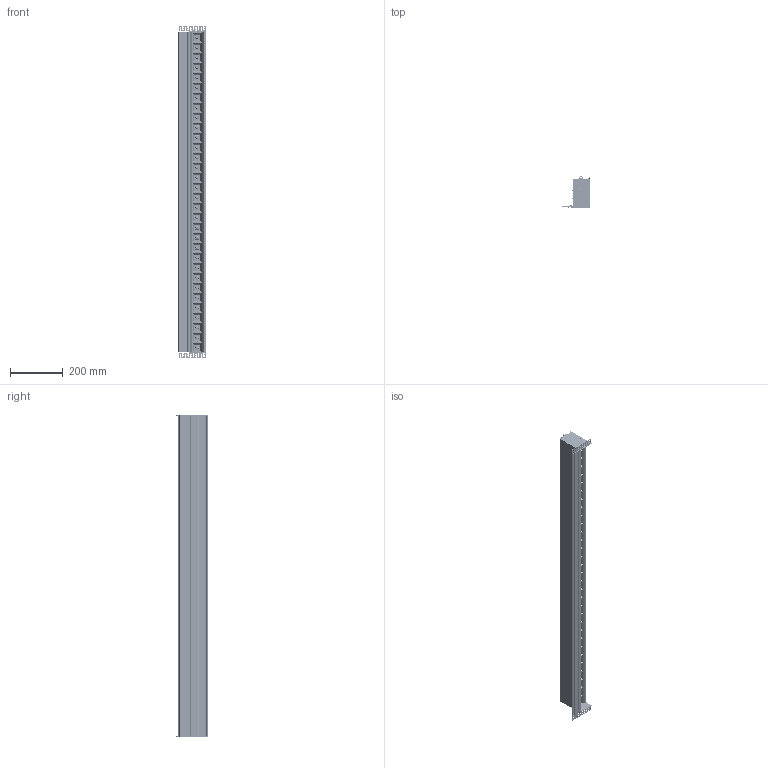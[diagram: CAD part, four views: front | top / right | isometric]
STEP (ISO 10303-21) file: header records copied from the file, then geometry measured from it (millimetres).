
FILE_DESCRIPTION (( 'STEP AP214' ), '1' );
FILE_NAME ('60PTLP-RPT-RLB.STEP', '2023-02-14T21:09:50', ( '' ), ( '' ), 'SwSTEP 2.0', 'SolidWorks 2021', '' );
FILE_SCHEMA (( 'AUTOMOTIVE_DESIGN' ));
Length unit declared in the file: inch
Products named in the file (24): 730-10066; 720-10208-400-XX; 730-20959-101; 410-20037; 310-10020-101_310-10020-101; 310-10153-101_90087A146; ProTools Linear Perimeter Housing Assemblies_Perimeter Plaster; 710-10424-300_710-10424-300-4''; 730-20909-100; ProTools Linear Perimeter GT_RLB 4''; 60PTLP-RPT-RLB; 310-10159-101_92005A218; 610-20809-930-152.4MM_Full length; 710-10416-300_2'' for joiner drawing suspended; 730-20910-100; 310-10040-101_310-10040-101; 710-10422-303-SA_710-10422-303-4''; ProTools Perimeter plaster end cap A; 310-10029-101_92005A112; Mirror410-20037; 760-10210-400; ProTools Linear plaster end cap C; 330-10009-400
Assembly tree (69 placements, depth 4):
  60PTLP-RPT-RLB
    ProTools Linear Perimeter Housing Assemblies_Perimeter Plaster
      710-10416-300_2'' for joiner drawing suspended
      730-20909-100
        ProTools Perimeter plaster end cap A
        ProTools Linear plaster end cap C
      730-20910-100
        ProTools Perimeter plaster end cap A
        ProTools Linear plaster end cap C
      310-10040-101_310-10040-101  x6
    ProTools Linear Perimeter GT_RLB 4''
      710-10422-303-SA_710-10422-303-4''
      710-10424-300_710-10424-300-4''
      310-10029-101_92005A112  x5
      610-20809-930-152.4MM_Full length  x2
      760-10210-400  x8
      310-10159-101_92005A218
      330-10009-400
      310-10020-101_310-10020-101  x8
      730-20959-101  x2
      730-10066  x2
      410-20037
        410-20037
        Mirror410-20037
      310-10153-101_90087A146  x16
      720-10208-400-XX  x4
Bounding box: 102.76 x 120.95 x 1262.2 mm (x, y, z)
Volume: 1883070.8 mm3; surface area: 1985236.9 mm2
Topology: 64 solids, 64 shells, 13806 faces, 35789 edges, 22515 vertices
Faces by surface type: plane 5163, cylinder 4464, bspline 1730, torus 966, cone 943, sphere 540
Entity records: 115783 total; most frequent: CARTESIAN_POINT 36170, ORIENTED_EDGE 16738, DIRECTION 14710, EDGE_CURVE 8369, VERTEX_POINT 5393, AXIS2_PLACEMENT_3D 4915, LINE 4880, VECTOR 4880
